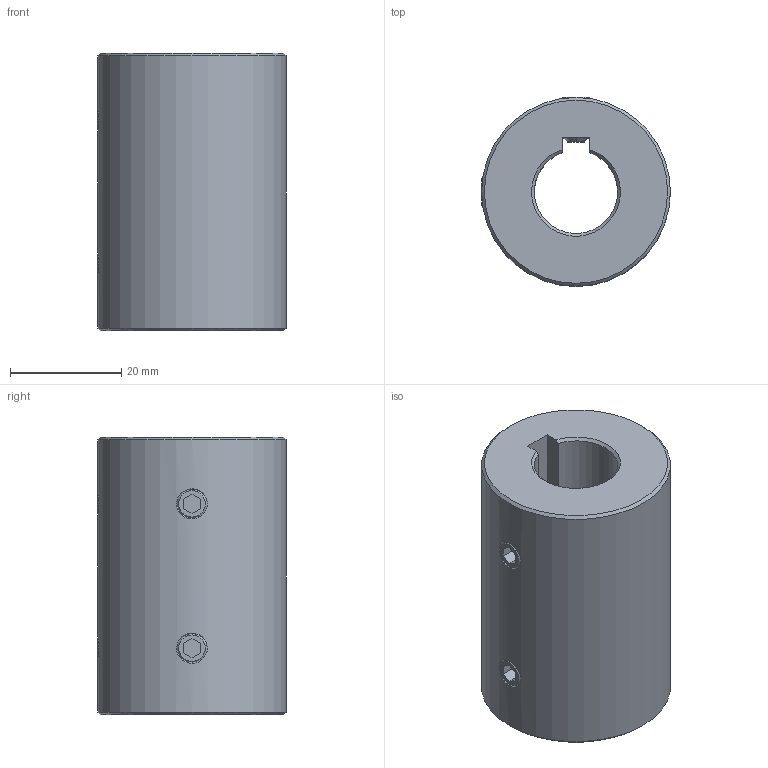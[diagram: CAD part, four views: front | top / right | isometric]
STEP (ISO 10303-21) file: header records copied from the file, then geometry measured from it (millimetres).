
FILE_DESCRIPTION (( 'STEP AP214' ), '1' );
FILE_NAME ('KBST1-VA-N15.STEP', '2025-07-29T07:20:41', ( '' ), ( '' ), 'SwSTEP 2.0', 'SolidWorks 2024', '' );
FILE_SCHEMA (( 'AUTOMOTIVE_DESIGN' ));
Length unit declared in the file: millimetre
Products named in the file (1): KBST1-VA-N15
Bounding box: 34 x 34 x 50 mm (x, y, z)
Volume: 35677.4 mm3; surface area: 10547.2 mm2
Topology: 5 solids, 5 shells, 85 faces, 197 edges, 116 vertices
Faces by surface type: plane 39, cone 28, cylinder 14, bspline 4
Full cylindrical faces by diameter (mm): 5 x4, 34 x1
Entity records: 7782 total; most frequent: CARTESIAN_POINT 4950, DIRECTION 370, ORIENTED_EDGE 352, EDGE_CURVE 176, AXIS2_PLACEMENT_3D 126, VECTOR 118, LINE 118, VERTEX_POINT 114
